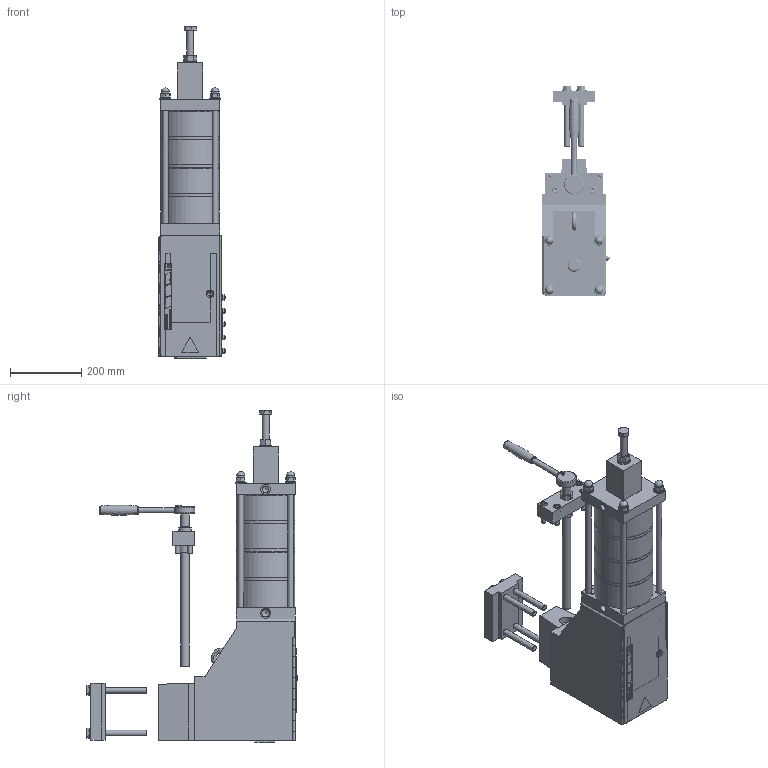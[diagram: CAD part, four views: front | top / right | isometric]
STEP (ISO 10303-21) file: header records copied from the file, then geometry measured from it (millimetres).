
FILE_DESCRIPTION(/* description */ (''),/* implementation_level */ '2;1');
FILE_NAME(/* name */ 'P:\Transfer Test\LP\Pressen_LP\LP Presseinheiten\PEH LP 45kN Hub40 G0600.stp',/* time_stamp */ '2020-11-12T12:57:30+01:00',/* author */ ('gsp'),/* organization */ (''),/* preprocessor_version */ 'ST-DEVELOPER v18',/* originating_system */ 'Autodesk Inventor 2020',/* authorisation */ '');
FILE_SCHEMA (('AUTOMOTIVE_DESIGN { 1 0 10303 214 3 1 1 }'));
Products named in the file (6): PEH LP 45kN Hub40 G0600; Spannplatte G0600; Führungseinheit_LP G0600_ohne_Schlitten_ANR18108; Schlittendummy_LP_G0600_ANR18109; LP_Zylinder_45kN_Hub40_ANR18139; Stellspindel G0600
Assembly tree (5 placements, depth 2):
  PEH LP 45kN Hub40 G0600
    Spannplatte G0600
    Führungseinheit_LP G0600_ohne_Schlitten_ANR18108
    Schlittendummy_LP_G0600_ANR18109
    LP_Zylinder_45kN_Hub40_ANR18139
    Stellspindel G0600
Bounding box: 188.72 x 594.57 x 932.9 mm (x, y, z)
Volume: 23235642.1 mm3; surface area: 1393989.6 mm2
Topology: 7 solids, 43 shells, 6717 faces, 18066 edges, 11995 vertices
Faces by surface type: plane 3459, bspline 2563, cylinder 422, cone 225, torus 40, sphere 8
Full cylindrical faces by diameter (mm): 2 x6, 2.1 x4, 3 x12, 3.242 x4, 4 x4, 4.134 x2, 4.917 x1, 5 x2, 5.1 x4, 5.2 x2, 5.5 x4, 6.2 x3, 6.5 x1, 6.647 x6, 6.8 x12, 6.917 x1, 8 x13, 8.4 x10, 9 x2, 10 x35, 10.106 x1, 10.45 x52, 10.5 x4, 11.5 x4, 12 x4, 13 x3, 13.5 x4, 13.835 x6, 15 x4, 15.5 x1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
Entity records: 241496 total; most frequent: CARTESIAN_POINT 83782, ORIENTED_EDGE 36004, DIRECTION 21922, EDGE_CURVE 18002, VERTEX_POINT 11997, LINE 10914, VECTOR 10914, EDGE_LOOP 7478
